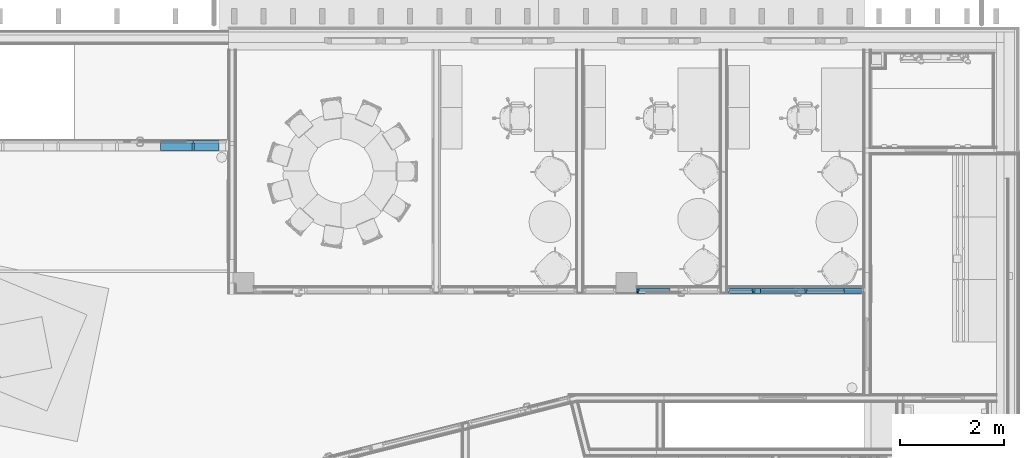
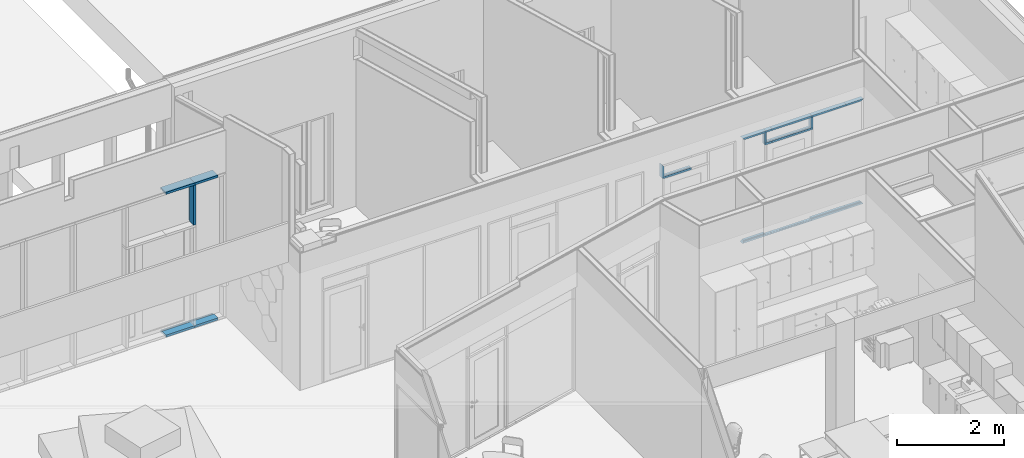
# One storey, part 7 of 153: 21 members, 3 elements without a shape of their own.
"""IFC2X3 building model written with IfcOpenShell, lengths in millimetres."""

from ifc_helpers import new_model, entity, si_unit, converted_unit, derived_unit, money_unit, direction, frame, origin_with_axes, place, context, subcontext, project, spatial, faceted_brep, source, transform, mapped, material, type_object, element, aggregate, save


model = new_model("IFC2X3")

# Units and contexts
model_context = context("Model", 3, precision=0.01, world=origin_with_axes(), true_north=direction((0.0, 1.0)))
body_context = subcontext(model_context, "Body", "Model", "MODEL_VIEW")
ifc_project = project(units=[si_unit("LENGTHUNIT", "METRE", prefix="MILLI"), si_unit("AREAUNIT", "SQUARE_METRE"), si_unit("VOLUMEUNIT", "CUBIC_METRE"), converted_unit("PLANEANGLEUNIT", "DEGREE", entity("IfcPlaneAngleMeasure", 0.0174532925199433), si_unit("PLANEANGLEUNIT", "RADIAN"), dimensions=[0, 0, 0, 0, 0, 0, 0]), money_unit("EUR"), converted_unit("TIMEUNIT", "Year", entity("IfcTimeMeasure", 31557600.0), si_unit("TIMEUNIT", "SECOND"), dimensions=[0, 0, 1, 0, 0, 0, 0]), si_unit("MASSUNIT", "GRAM", prefix="KILO"), si_unit("THERMODYNAMICTEMPERATUREUNIT", "DEGREE_CELSIUS"), si_unit("LUMINOUSINTENSITYUNIT", "LUMEN"), si_unit("ENERGYUNIT", "JOULE", prefix="MEGA"), derived_unit("THERMALCONDUCTANCEUNIT", [(si_unit("POWERUNIT", "WATT"), 1), (si_unit("LENGTHUNIT", "METRE"), -1), (si_unit("THERMODYNAMICTEMPERATUREUNIT", "KELVIN"), -1)]), derived_unit("SPECIFICHEATCAPACITYUNIT", [(si_unit("ENERGYUNIT", "JOULE"), 1), (si_unit("MASSUNIT", "GRAM", prefix="KILO"), -1), (si_unit("THERMODYNAMICTEMPERATUREUNIT", "KELVIN"), -1)]), derived_unit("MASSDENSITYUNIT", [(si_unit("MASSUNIT", "GRAM", prefix="KILO"), 1), (si_unit("VOLUMEUNIT", "CUBIC_METRE"), -1)])], contexts=[model_context])

# Site, building, storey
site_placement = place(None, frame((0.0, 0.0, 8650.0), z_axis=(0.0, 0.0, 1.0), x_axis=(1.0, 0.0, 0.0)))
site = spatial("IfcSite", under=ifc_project, at=site_placement, Name="43301:001:0844", CompositionType="ELEMENT")
building_placement = place(site_placement, origin_with_axes())
building = spatial("IfcBuilding", under=site, at=building_placement, Name="Kuressaare Ametikooli tuulikute mehaanikute õppekorpus", CompositionType="ELEMENT")
storey_placement = place(building_placement, frame((0.0, 0.0, 4100.0), z_axis=(0.0, 0.0, 1.0), x_axis=(1.0, 0.0, 0.0)))
storey = spatial("IfcBuildingStorey", under=building, at=storey_placement, Name="2.korrus", CompositionType="ELEMENT", Elevation=4100.0)

# Curtain wall, members
curtain_wall_type = type_object("IfcCurtainWallType", Name="Curtain Wall Type", PredefinedType="NOTDEFINED")
curtain_wall_1_placement = place(storey_placement, frame((116907.3849272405, 26479.57374875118, 34.9999663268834), z_axis=(0.0, 0.0, 1.0), x_axis=(1.0, 0.0, 0.0)))
curtain_wall_1 = element("IfcCurtainWall", 1, at=curtain_wall_1_placement, inside=storey, type_object=curtain_wall_type, Name="SKF-2.2,EI60")
ifc_material = material(Name="Aluminium")
member_type_1 = type_object("IfcMemberType", Name="Mullion Frame 50 x 200", PredefinedType="NOTDEFINED")
shared_shape_1 = source(origin_with_axes(), body_context, "Body", "Brep", [
    faceted_brep([(5.000000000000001, -20.0, 935.0000344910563), (5.000000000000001, 20.0, 935.0000346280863), (25.0, 19.99999999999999, 935.0000346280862), (25.0, 30.0, 935.0000346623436), (-25.0, 30.0, 935.0000346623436), (-25.0, 20.0, 935.0000346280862), (-5.000000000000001, 20.0, 935.0000346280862), (-5.000000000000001, -20.0, 935.0000344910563), (-25.0, -20.0, 935.0000344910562), (-25.0, -170.0, 935.000033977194), (25.0, -170.0, 935.000033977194), (25.0, -19.99999999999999, 935.0000344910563), (5.000000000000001, -20.0, 25.00002973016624), (5.000000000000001, 20.0, 24.99997026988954), (25.0, 20.0, 24.99997026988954), (25.0, 30.0, 24.99995540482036), (-25.0, 30.0, 24.99995540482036), (-25.0, 19.99999999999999, 24.99997026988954), (-5.000000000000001, 20.0, 24.99997026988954), (-5.000000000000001, -20.0, 25.00002973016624), (-25.0, -19.99999999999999, 25.00002973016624), (-25.0, -170.0, 25.00025270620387), (25.0, -170.0, 25.00025270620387), (25.0, -20.0, 25.00002973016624)], [[[0, 1, 2, 3, 4, 5, 6, 7, 8, 9, 10, 11]], [[0, 12, 13, 1]], [[1, 13, 14, 2]], [[14, 15, 3, 2]], [[4, 3, 15, 16]], [[17, 5, 4, 16]], [[5, 17, 18, 6]], [[7, 6, 18, 19]], [[8, 7, 19, 20]], [[8, 20, 21, 9]], [[10, 9, 21, 22]], [[11, 10, 22, 23]], [[11, 23, 12, 0]], [[13, 12, 23, 22, 21, 20, 19, 18, 17, 16, 15, 14]]]),
])
member_1_placement = place(curtain_wall_1_placement, frame((694.7177815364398, 0.0, 2300.000031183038), z_axis=(2.607958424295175e-09, 0.0, 1.0), x_axis=(-1.0, 0.0, 2.607958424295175e-09)))
member_1 = element("IfcMember", 2, at=member_1_placement, type_object=member_type_1, material=ifc_material, context=body_context, shape_type="MappedRepresentation", body=[
    mapped(shared_shape_1, transform((0.0, 0.0, 0.0), x_axis=(-1.0, 0.0, 2.607958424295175e-09), y_axis=(0.0, -1.0, 0.0), z_axis=(2.607958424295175e-09, 0.0, 1.0))),
])
member_type_2 = type_object("IfcMemberType", Name="Boundary Frame 50 x 200", PredefinedType="NOTDEFINED")
shared_shape_2 = source(origin_with_axes(), body_context, "Body", "Brep", [
    faceted_brep([(-5.000000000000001, -20.0, 624.1533366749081), (-25.0, -19.99999999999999, 624.1533366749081), (-25.0, -170.0, 624.1533366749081), (25.0, -170.0, 624.1533366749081), (25.0, 30.0, 624.1533366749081), (-25.0, 30.0, 624.1533366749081), (-25.0, 19.99999999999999, 624.1533366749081), (-5.000000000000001, 20.0, 624.1533366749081), (-5.000000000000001, -20.0, 0.0), (-25.0, -19.99999999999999, 0.0), (-25.0, -170.0, 0.0), (25.0, -170.0, 0.0), (25.0, 30.0, 0.0), (-25.0, 30.0, 0.0), (-25.0, 19.99999999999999, 0.0), (-5.000000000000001, 20.0, 0.0)], [[[0, 1, 2, 3, 4, 5, 6, 7]], [[0, 8, 9, 1]], [[9, 10, 2, 1]], [[10, 11, 3, 2]], [[11, 12, 4, 3]], [[12, 13, 5, 4]], [[6, 5, 13, 14]], [[14, 15, 7, 6]], [[7, 15, 8, 0]], [[8, 15, 14, 13, 12, 11, 10, 9]]]),
])
member_2_placement = place(curtain_wall_1_placement, frame((694.7177840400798, 0.0, 3259.999983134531), z_axis=(-1.0, 0.0, 0.0), x_axis=(0.0, 0.0, -1.0)))
member_2 = element("IfcMember", 3, at=member_2_placement, type_object=member_type_2, material=ifc_material, context=body_context, shape_type="MappedRepresentation", body=[
    mapped(shared_shape_2, transform((0.0, 0.0, 0.0), x_axis=(-1.0, 0.0, 0.0), y_axis=(0.0, -1.0, 0.0), z_axis=(0.0, 0.0, 1.0))),
])
member_3_placement = place(curtain_wall_1_placement, frame((70.56444736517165, 0.0, 0.0), z_axis=(1.0, 0.0, 0.0), x_axis=(0.0, 0.0, 1.0)))
member_3 = element("IfcMember", 4, at=member_3_placement, type_object=member_type_2, material=ifc_material, context=body_context, shape_type="MappedRepresentation", body=[
    mapped(shared_shape_2, transform((0.0, 0.0, 0.0), x_axis=(-1.0, 0.0, 0.0), y_axis=(0.0, -1.0, 0.0), z_axis=(0.0, 0.0, 1.0))),
])
shared_shape_3 = source(origin_with_axes(), body_context, "Body", "Brep", [
    faceted_brep([(-5.000000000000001, -20.0, 500.8466633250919), (-25.0, -19.99999999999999, 500.8466633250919), (-25.0, -170.0, 500.8466633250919), (25.0, -170.0, 500.8466633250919), (25.0, 30.0, 500.8466633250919), (-25.0, 30.0, 500.8466633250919), (-25.0, 19.99999999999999, 500.8466633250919), (-5.000000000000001, 20.0, 500.8466633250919), (-5.000000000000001, -20.0, -7.815231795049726e-06), (-25.0, -19.99999999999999, -7.815231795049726e-06), (-25.0, -170.0, -7.815231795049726e-06), (25.0, -170.0, -7.815231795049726e-06), (25.0, 30.0, -7.815231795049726e-06), (-25.0, 30.0, -7.815231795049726e-06), (-25.0, 19.99999999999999, -7.815231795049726e-06), (-5.000000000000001, 20.0, -7.815231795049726e-06)], [[[0, 1, 2, 3, 4, 5, 6, 7]], [[0, 8, 9, 1]], [[9, 10, 2, 1]], [[10, 11, 3, 2]], [[11, 12, 4, 3]], [[12, 13, 5, 4]], [[6, 5, 13, 14]], [[14, 15, 7, 6]], [[7, 15, 8, 0]], [[8, 15, 14, 13, 12, 11, 10, 9]]]),
])
member_4_placement = place(curtain_wall_1_placement, frame((1195.564447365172, 0.0, 3259.999983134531), z_axis=(-1.0, 0.0, 0.0), x_axis=(0.0, 0.0, -1.0)))
member_4 = element("IfcMember", 5, at=member_4_placement, type_object=member_type_2, material=ifc_material, context=body_context, shape_type="MappedRepresentation", body=[
    mapped(shared_shape_3, transform((0.0, 0.0, 0.0), x_axis=(-1.0, 0.0, 0.0), y_axis=(0.0, -1.0, 0.0), z_axis=(0.0, 0.0, 1.0))),
])
member_5_placement = place(curtain_wall_1_placement, frame((694.7177815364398, 0.0, 0.0), z_axis=(1.0, 0.0, 0.0), x_axis=(0.0, 0.0, 1.0)))
member_5 = element("IfcMember", 6, at=member_5_placement, type_object=member_type_2, material=ifc_material, context=body_context, shape_type="MappedRepresentation", body=[
    mapped(shared_shape_3, transform((0.0, 0.0, 0.0), x_axis=(-1.0, 0.0, 0.0), y_axis=(0.0, -1.0, 0.0), z_axis=(0.0, 0.0, 1.0))),
])
aggregate(curtain_wall_1, [member_2, member_4, member_1, member_3, member_5])

curtain_wall_2_placement = place(storey_placement, frame((128158.0683354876, 23599.06892395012, 7.152564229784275e-05), z_axis=(0.0, 0.0, 1.0), x_axis=(1.0, 0.0, 0.0)))
curtain_wall_2 = element("IfcCurtainWall", 7, at=curtain_wall_2_placement, inside=storey, type_object=curtain_wall_type, Name="PKF1.5")
member_type_3 = type_object("IfcMemberType", Name="Mullion Frame 40 x 90", PredefinedType="NOTDEFINED")
shared_shape_4 = source(origin_with_axes(), body_context, "Body", "Brep", [
    faceted_brep([(-5.000000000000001, -15.0, 260.000051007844), (-20.0, -15.0, 260.000051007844), (-20.0, -65.0, 260.000051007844), (20.0, -65.0, 260.000051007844), (20.0, -15.0, 260.000051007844), (5.000000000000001, -15.0, 260.000051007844), (5.000000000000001, 15.0, 260.000051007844), (20.0, 15.0, 260.000051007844), (20.0, 24.99999999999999, 260.000051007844), (-20.0, 24.99999999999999, 260.000051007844), (-20.0, 15.0, 260.000051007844), (-5.000000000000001, 15.0, 260.000051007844), (-5.000000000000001, -15.0, 20.00000000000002), (-20.0, -15.0, 20.00000000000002), (-20.0, -65.0, 20.00000000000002), (20.0, -65.0, 20.00000000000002), (20.0, -15.0, 20.00000000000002), (5.000000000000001, -15.0, 20.00000000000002), (5.000000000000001, 15.0, 20.00000000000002), (20.0, 15.0, 20.00000000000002), (20.0, 24.99999999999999, 20.00000000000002), (-20.0, 24.99999999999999, 20.00000000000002), (-20.0, 15.0, 20.00000000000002), (-5.000000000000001, 15.0, 20.00000000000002)], [[[0, 1, 2, 3, 4, 5, 6, 7, 8, 9, 10, 11]], [[1, 0, 12, 13]], [[1, 13, 14, 2]], [[2, 14, 15, 3]], [[4, 3, 15, 16]], [[4, 16, 17, 5]], [[5, 17, 18, 6]], [[7, 6, 18, 19]], [[19, 20, 8, 7]], [[8, 20, 21, 9]], [[22, 10, 9, 21]], [[11, 10, 22, 23]], [[0, 11, 23, 12]], [[23, 22, 21, 20, 19, 18, 17, 16, 15, 14, 13, 12]]]),
])
member_6_placement = place(curtain_wall_2_placement, frame((200.0000078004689, 0.0, 2099.999935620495), z_axis=(0.0, 0.0, 1.0), x_axis=(-1.0, 0.0, 0.0)))
member_6 = element("IfcMember", 8, at=member_6_placement, type_object=member_type_3, material=ifc_material, context=body_context, shape_type="MappedRepresentation", body=[
    mapped(shared_shape_4, transform((0.0, 0.0, 0.0))),
])
member_7_placement = place(curtain_wall_2_placement, frame((1200.000037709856, 0.0, 2099.999935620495), z_axis=(0.0, 0.0, 1.0), x_axis=(-1.0, 0.0, 0.0)))
member_7 = element("IfcMember", 9, at=member_7_placement, type_object=member_type_3, material=ifc_material, context=body_context, shape_type="MappedRepresentation", body=[
    mapped(shared_shape_4, transform((0.0, 0.0, 0.0))),
])

curtain_wall_3_placement = place(storey_placement, frame((126664.0825969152, 23599.06892395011, 9.536752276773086e-05), z_axis=(0.0, 0.0, 1.0), x_axis=(1.0, 0.0, 0.0)))
curtain_wall_3 = element("IfcCurtainWall", 10, at=curtain_wall_3_placement, inside=storey, type_object=curtain_wall_type, Name="PKF-1.4")
member_type_4 = type_object("IfcMemberType", Name="Boundary Frame 40 x 90", PredefinedType="NOTDEFINED")
shared_shape_5 = source(origin_with_axes(), body_context, "Body", "Brep", [
    faceted_brep([(-5.000000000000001, -15.0, 638.0426912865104), (-20.0, -15.0, 638.0426912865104), (-20.0, -65.0, 638.0426912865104), (20.0, -65.0, 638.0426912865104), (20.0, -15.0, 638.0426912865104), (5.000000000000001, -15.0, 638.0426912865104), (5.000000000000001, 15.0, 638.0426912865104), (20.0, 15.0, 638.0426912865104), (20.0, 24.99999999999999, 638.0426912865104), (-20.0, 24.99999999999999, 638.0426912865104), (-20.0, 15.0, 638.0426912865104), (-5.000000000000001, 15.0, 638.0426912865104), (-5.000000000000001, -15.0, 10.00000000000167), (-20.00000000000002, -15.0, 40.00000000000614), (-20.00000000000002, -65.0, 40.00000000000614), (0.0, -65.0, 0.0), (20.00000000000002, -65.0, 40.00000000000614), (20.00000000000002, -15.0, 40.00000000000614), (5.000000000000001, -15.0, 10.00000000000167), (5.000000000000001, 15.0, 10.00000000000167), (20.00000000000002, 15.0, 40.00000000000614), (20.00000000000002, 24.99999999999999, 40.00000000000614), (0.0, 24.99999999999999, 0.0), (-20.00000000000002, 24.99999999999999, 40.00000000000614), (-20.00000000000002, 15.0, 40.00000000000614), (-5.000000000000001, 15.0, 10.00000000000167)], [[[0, 1, 2, 3, 4, 5, 6, 7, 8, 9, 10, 11]], [[1, 0, 12, 13]], [[1, 13, 14, 2]], [[14, 15, 16, 3, 2]], [[4, 3, 16, 17]], [[4, 17, 18, 5]], [[5, 18, 19, 6]], [[7, 6, 19, 20]], [[20, 21, 8, 7]], [[21, 22, 23, 9, 8]], [[24, 10, 9, 23]], [[11, 10, 24, 25]], [[0, 11, 25, 12]], [[25, 24, 23, 22, 15, 14, 13, 12]], [[21, 20, 19, 18, 17, 16, 15, 22]]]),
])
member_8_placement = place(curtain_wall_3_placement, frame((-546.0142731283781, 0.0, 2099.999916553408), z_axis=(1.0, 0.0, 0.0), x_axis=(0.0, 0.0, 1.0)))
member_8 = element("IfcMember", 11, at=member_8_placement, type_object=member_type_4, material=ifc_material, context=body_context, shape_type="MappedRepresentation", body=[
    mapped(shared_shape_5, transform((0.0, 0.0, 0.0))),
])
shared_shape_6 = source(origin_with_axes(), body_context, "Body", "Brep", [
    faceted_brep([(25.0, -15.0, 287.5000510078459), (25.0, 15.0, 287.5000510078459), (40.00000000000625, 15.0, 280.000051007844), (40.00000000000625, 24.99999999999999, 280.000051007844), (0.0, 25.00000000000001, 300.000051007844), (0.0, 0.0, 300.000051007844), (0.0, -65.0, 300.000051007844), (40.00000000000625, -65.0, 280.000051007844), (40.00000000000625, -15.0, 280.000051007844), (25.0, -15.0, 25.00000000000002), (25.0, 15.0, 25.00000000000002), (40.00000000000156, 15.0, 40.00000000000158), (40.00000000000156, 24.99999999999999, 40.00000000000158), (0.0, 24.99999999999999, 0.0), (0.0, 0.0, 0.0), (0.0, -65.0, 0.0), (40.00000000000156, -65.0, 40.00000000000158), (40.00000000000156, -15.0, 40.00000000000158)], [[[0, 1, 2, 3, 4, 5, 6, 7, 8]], [[1, 0, 9, 10]], [[11, 2, 1, 10]], [[2, 11, 12, 3]], [[3, 12, 13, 4]], [[4, 13, 14, 5]], [[5, 14, 15, 6]], [[6, 15, 16, 7]], [[17, 8, 7, 16]], [[0, 8, 17, 9]], [[9, 17, 16, 15, 14, 13, 12, 11, 10]]]),
])
member_9_placement = place(curtain_wall_3_placement, frame((-546.0142731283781, 0.0, 2399.999976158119), z_axis=(0.0, 0.0, -1.0), x_axis=(1.0, 0.0, 0.0)))
member_9 = element("IfcMember", 12, at=member_9_placement, type_object=member_type_4, material=ifc_material, context=body_context, shape_type="MappedRepresentation", body=[
    mapped(shared_shape_6, transform((0.0, 0.0, 0.0))),
])
aggregate(curtain_wall_3, [member_9, member_8])

# Member
shared_shape_7 = source(origin_with_axes(), body_context, "Body", "Brep", [
    faceted_brep([(25.0, -15.0, 738.0427265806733), (25.0, 15.0, 738.0427265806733), (40.0, 15.0, 738.0427265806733), (40.0, 24.99999999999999, 738.0427265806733), (0.0, 24.99999999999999, 738.0427265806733), (0.0, 0.0, 738.0427265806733), (0.0, -65.0, 738.0427265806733), (40.0, -65.0, 738.0427265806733), (40.0, -15.0, 738.0427265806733), (25.0, -15.0, 0.0), (25.0, 15.0, 0.0), (40.0, 15.0, 0.0), (40.0, 24.99999999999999, 0.0), (0.0, 24.99999999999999, 0.0), (0.0, 0.0, 0.0), (0.0, -65.0, 0.0), (40.0, -65.0, 0.0), (40.0, -15.0, 0.0)], [[[0, 1, 2, 3, 4, 5, 6, 7, 8]], [[1, 0, 9, 10]], [[11, 2, 1, 10]], [[2, 11, 12, 3]], [[13, 4, 3, 12]], [[14, 5, 4, 13]], [[15, 6, 5, 14]], [[16, 7, 6, 15]], [[17, 8, 7, 16]], [[0, 8, 17, 9]], [[9, 17, 16, 15, 14, 13, 12, 11, 10]]]),
])
member_10_placement = place(curtain_wall_2_placement, frame((1200.000037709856, 0.0, -7.152564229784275e-05), z_axis=(1.0, 0.0, 0.0), x_axis=(0.0, 0.0, 1.0)))
member_10 = element("IfcMember", 13, at=member_10_placement, type_object=member_type_4, material=ifc_material, context=body_context, shape_type="MappedRepresentation", body=[
    mapped(shared_shape_7, transform((0.0, 0.0, 0.0))),
])

shared_shape_8 = source(origin_with_axes(), body_context, "Body", "Brep", [
    faceted_brep([(-25.0, -15.0, 738.0427265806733), (-40.0, -15.0, 738.0427265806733), (-40.0, -65.0, 738.0427265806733), (0.0, -65.0, 738.0427265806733), (0.0, 0.0, 738.0427265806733), (0.0, 24.99999999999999, 738.0427265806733), (-40.0, 24.99999999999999, 738.0427265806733), (-40.0, 15.0, 738.0427265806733), (-25.0, 15.0, 738.0427265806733), (-25.0, -15.0, 0.0), (-40.0, -15.0, 0.0), (-40.0, -65.0, 0.0), (0.0, -65.0, 0.0), (0.0, 0.0, 0.0), (0.0, 24.99999999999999, 0.0), (-40.0, 24.99999999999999, 0.0), (-40.0, 15.0, 0.0), (-25.0, 15.0, 0.0)], [[[0, 1, 2, 3, 4, 5, 6, 7, 8]], [[0, 9, 10, 1]], [[10, 11, 2, 1]], [[11, 12, 3, 2]], [[12, 13, 4, 3]], [[13, 14, 5, 4]], [[14, 15, 6, 5]], [[7, 6, 15, 16]], [[16, 17, 8, 7]], [[8, 17, 9, 0]], [[9, 17, 16, 15, 14, 13, 12, 11, 10]]]),
])
member_11_placement = place(curtain_wall_2_placement, frame((1200.000037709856, 0.0, 2400.000009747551), z_axis=(1.0, 0.0, 0.0), x_axis=(0.0, 0.0, 1.0)))
member_11 = element("IfcMember", 14, at=member_11_placement, type_object=member_type_4, material=ifc_material, context=body_context, shape_type="MappedRepresentation", body=[
    mapped(shared_shape_8, transform((0.0, 0.0, 0.0))),
])

shared_shape_9 = source(origin_with_axes(), body_context, "Body", "Brep", [
    faceted_brep([(-25.0, -15.0, 138.0427564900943), (-40.0, -15.0, 138.0427564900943), (-40.0, -65.0, 138.0427564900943), (0.0, -65.0, 138.0427564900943), (0.0, 0.0, 138.0427564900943), (0.0, 24.99999999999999, 138.0427564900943), (-40.0, 24.99999999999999, 138.0427564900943), (-40.0, 15.0, 138.0427564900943), (-25.0, 15.0, 138.0427564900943), (-25.0, -15.0, 0.0), (-40.0, -15.0, 0.0), (-40.0, -65.0, 0.0), (0.0, -65.0, 0.0), (0.0, 0.0, 0.0), (0.0, 24.99999999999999, 0.0), (-40.0, 24.99999999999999, 0.0), (-40.0, 15.0, 0.0), (-25.0, 15.0, 0.0)], [[[0, 1, 2, 3, 4, 5, 6, 7, 8]], [[0, 9, 10, 1]], [[10, 11, 2, 1]], [[11, 12, 3, 2]], [[12, 13, 4, 3]], [[13, 14, 5, 4]], [[14, 15, 6, 5]], [[7, 6, 15, 16]], [[16, 17, 8, 7]], [[8, 17, 9, 0]], [[9, 17, 16, 15, 14, 13, 12, 11, 10]]]),
])
member_12_placement = place(curtain_wall_2_placement, frame((200.0000078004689, 0.0, 2400.000009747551), z_axis=(1.0, 0.0, 0.0), x_axis=(0.0, 0.0, 1.0)))
member_12 = element("IfcMember", 15, at=member_12_placement, type_object=member_type_4, material=ifc_material, context=body_context, shape_type="MappedRepresentation", body=[
    mapped(shared_shape_9, transform((0.0, 0.0, 0.0))),
])

shared_shape_10 = source(origin_with_axes(), body_context, "Body", "Brep", [
    faceted_brep([(-25.0, -15.0, 346.9572810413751), (-40.0, -15.0, 331.9572810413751), (-40.0, -65.0, 331.9572810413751), (0.0, -65.0, 371.9572810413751), (0.0, 0.0, 371.9572810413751), (0.0, 24.99999999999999, 371.9572810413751), (-40.0, 24.99999999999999, 331.9572810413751), (-40.0, 15.0, 331.9572810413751), (-25.0, 15.0, 346.9572810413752), (-25.0, -15.0, 0.0), (-40.0, -15.0, 0.0), (-40.0, -65.0, 0.0), (0.0, -65.0, 0.0), (0.0, 0.0, 0.0), (0.0, 24.99999999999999, 0.0), (-40.0, 24.99999999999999, 0.0), (-40.0, 15.0, 0.0), (-25.0, 15.0, 0.0)], [[[0, 1, 2, 3, 4, 5, 6, 7, 8]], [[0, 9, 10, 1]], [[10, 11, 2, 1]], [[11, 12, 3, 2]], [[12, 13, 4, 3]], [[13, 14, 5, 4]], [[14, 15, 6, 5]], [[7, 6, 15, 16]], [[16, 17, 8, 7]], [[8, 17, 9, 0]], [[9, 17, 16, 15, 14, 13, 12, 11, 10]]]),
])
member_13_placement = place(curtain_wall_2_placement, frame((1938.042764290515, 0.0, 2400.000009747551), z_axis=(1.0, 0.0, 0.0), x_axis=(0.0, 0.0, 1.0)))
member_13 = element("IfcMember", 16, at=member_13_placement, type_object=member_type_4, material=ifc_material, context=body_context, shape_type="MappedRepresentation", body=[
    mapped(shared_shape_10, transform((0.0, 0.0, 0.0))),
])

shared_shape_11 = source(origin_with_axes(), body_context, "Body", "Brep", [
    faceted_brep([(25.0, -15.0, 346.9572810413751), (25.0, 15.0, 346.9572810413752), (40.0, 15.0, 331.9572810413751), (40.0, 24.99999999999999, 331.9572810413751), (0.0, 24.99999999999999, 371.9572810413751), (0.0, 0.0, 371.9572810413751), (0.0, -65.0, 371.9572810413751), (40.0, -65.0, 331.9572810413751), (40.0, -15.0, 331.9572810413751), (25.0, -15.0, 0.0), (25.0, 15.0, 0.0), (40.0, 15.0, 0.0), (40.0, 24.99999999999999, 0.0), (0.0, 24.99999999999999, 0.0), (0.0, 0.0, 0.0), (0.0, -65.0, 0.0), (40.0, -65.0, 0.0), (40.0, -15.0, 0.0)], [[[0, 1, 2, 3, 4, 5, 6, 7, 8]], [[1, 0, 9, 10]], [[11, 2, 1, 10]], [[2, 11, 12, 3]], [[13, 4, 3, 12]], [[14, 5, 4, 13]], [[15, 6, 5, 14]], [[16, 7, 6, 15]], [[17, 8, 7, 16]], [[0, 8, 17, 9]], [[9, 17, 16, 15, 14, 13, 12, 11, 10]]]),
])
member_14_placement = place(curtain_wall_2_placement, frame((1938.042764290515, 0.0, -7.152564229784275e-05), z_axis=(1.0, 0.0, 0.0), x_axis=(0.0, 0.0, 1.0)))
member_14 = element("IfcMember", 17, at=member_14_placement, type_object=member_type_4, material=ifc_material, context=body_context, shape_type="MappedRepresentation", body=[
    mapped(shared_shape_11, transform((0.0, 0.0, 0.0))),
])

member_type_5 = type_object("IfcMemberType", Name="10 x 90", PredefinedType="NOTDEFINED")
shared_shape_12 = source(origin_with_axes(), body_context, "Body", "Brep", [
    faceted_brep([(5.0, -15.0, 138.0427564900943), (5.0, 15.0, 138.0427564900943), (10.0, 15.0, 138.0427564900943), (10.0, 24.99999999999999, 138.0427564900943), (0.0, 24.99999999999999, 138.0427564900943), (0.0, 0.0, 138.0427564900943), (0.0, -65.0, 138.0427564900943), (10.0, -65.0, 138.0427564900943), (10.0, -15.0, 138.0427564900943), (5.0, -15.0, 0.0), (5.0, 15.0, 0.0), (10.0, 15.0, 0.0), (10.0, 24.99999999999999, 0.0), (0.0, 24.99999999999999, 0.0), (0.0, 0.0, 0.0), (0.0, -65.0, 0.0), (10.0, -65.0, 0.0), (10.0, -15.0, 0.0)], [[[0, 1, 2, 3, 4, 5, 6, 7, 8]], [[1, 0, 9, 10]], [[11, 2, 1, 10]], [[2, 11, 12, 3]], [[13, 4, 3, 12]], [[14, 5, 4, 13]], [[15, 6, 5, 14]], [[16, 7, 6, 15]], [[17, 8, 7, 16]], [[0, 8, 17, 9]], [[9, 17, 16, 15, 14, 13, 12, 11, 10]]]),
])
member_15_placement = place(curtain_wall_2_placement, frame((200.0000078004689, 0.0, -7.152564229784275e-05), z_axis=(1.0, 0.0, 0.0), x_axis=(0.0, 0.0, 1.0)))
member_15 = element("IfcMember", 18, at=member_15_placement, type_object=member_type_5, material=ifc_material, context=body_context, shape_type="MappedRepresentation", body=[
    mapped(shared_shape_12, transform((0.0, 0.0, 0.0))),
])

shared_shape_13 = source(origin_with_axes(), body_context, "Body", "Brep", [
    faceted_brep([(25.0, -15.0, 500.0000195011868), (25.0, 15.0, 500.0000195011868), (40.0, 15.0, 500.0000195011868), (40.0, 24.99999999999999, 500.0000195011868), (0.0, 24.99999999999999, 500.0000195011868), (0.0, 0.0, 500.0000195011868), (0.0, -65.0, 500.0000195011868), (40.0, -65.0, 500.0000195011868), (40.0, -15.0, 500.0000195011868), (25.0, -15.0, 25.00000000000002), (25.0, 15.0, 25.00000000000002), (40.0, 15.0, 40.00000000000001), (40.0, 24.99999999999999, 40.00000000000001), (0.0, 24.99999999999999, 0.0), (0.0, 0.0, 0.0), (0.0, -65.0, 0.0), (40.0, -65.0, 40.00000000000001), (40.0, -15.0, 40.00000000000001)], [[[0, 1, 2, 3, 4, 5, 6, 7, 8]], [[1, 0, 9, 10]], [[11, 2, 1, 10]], [[2, 11, 12, 3]], [[4, 3, 12, 13]], [[5, 4, 13, 14]], [[6, 5, 14, 15]], [[7, 6, 15, 16]], [[17, 8, 7, 16]], [[0, 8, 17, 9]], [[9, 17, 16, 15, 14, 13, 12, 11, 10]]]),
])
member_16_placement = place(curtain_wall_2_placement, frame((-300.000011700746, 0.0, -7.152564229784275e-05), z_axis=(1.0, 0.0, 0.0), x_axis=(0.0, 0.0, 1.0)))
member_16 = element("IfcMember", 19, at=member_16_placement, type_object=member_type_4, material=ifc_material, context=body_context, shape_type="MappedRepresentation", body=[
    mapped(shared_shape_13, transform((0.0, 0.0, 0.0))),
])

shared_shape_14 = source(origin_with_axes(), body_context, "Body", "Brep", [
    faceted_brep([(5.0, -15.0, 861.9572734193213), (5.0, 15.0, 861.9572734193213), (10.0, 15.0, 861.9572734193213), (10.0, 24.99999999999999, 861.9572734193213), (0.0, 24.99999999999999, 861.9572734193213), (0.0, 0.0, 861.9572734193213), (0.0, -65.0, 861.9572734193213), (10.0, -65.0, 861.9572734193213), (10.0, -15.0, 861.9572734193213), (5.0, -15.0, 0.0), (5.0, 15.0, 0.0), (10.0, 15.0, 0.0), (10.0, 24.99999999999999, 0.0), (0.0, 24.99999999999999, 0.0), (0.0, 0.0, 0.0), (0.0, -65.0, 0.0), (10.0, -65.0, 0.0), (10.0, -15.0, 0.0)], [[[0, 1, 2, 3, 4, 5, 6, 7, 8]], [[1, 0, 9, 10]], [[11, 2, 1, 10]], [[2, 11, 12, 3]], [[13, 4, 3, 12]], [[14, 5, 4, 13]], [[15, 6, 5, 14]], [[16, 7, 6, 15]], [[17, 8, 7, 16]], [[0, 8, 17, 9]], [[9, 17, 16, 15, 14, 13, 12, 11, 10]]]),
])
member_17_placement = place(curtain_wall_2_placement, frame((338.0427642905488, 0.0, -7.152564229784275e-05), z_axis=(1.0, 0.0, 0.0), x_axis=(0.0, 0.0, 1.0)))
member_17 = element("IfcMember", 20, at=member_17_placement, type_object=member_type_5, material=ifc_material, context=body_context, shape_type="MappedRepresentation", body=[
    mapped(shared_shape_14, transform((0.0, 0.0, 0.0))),
])

shared_shape_15 = source(origin_with_axes(), body_context, "Body", "Brep", [
    faceted_brep([(-25.0, -15.0, 861.9572734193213), (-40.0, -15.0, 861.9572734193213), (-40.0, -65.0, 861.9572734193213), (0.0, -65.0, 861.9572734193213), (0.0, 0.0, 861.9572734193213), (0.0, 24.99999999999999, 861.9572734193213), (-40.0, 24.99999999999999, 861.9572734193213), (-40.0, 15.0, 861.9572734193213), (-25.0, 15.0, 861.9572734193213), (-25.0, -15.0, 0.0), (-40.0, -15.0, 0.0), (-40.0, -65.0, 0.0), (0.0, -65.0, 0.0), (0.0, 0.0, 0.0), (0.0, 24.99999999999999, 0.0), (-40.0, 24.99999999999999, 0.0), (-40.0, 15.0, 0.0), (-25.0, 15.0, 0.0)], [[[0, 1, 2, 3, 4, 5, 6, 7, 8]], [[0, 9, 10, 1]], [[10, 11, 2, 1]], [[11, 12, 3, 2]], [[12, 13, 4, 3]], [[13, 14, 5, 4]], [[14, 15, 6, 5]], [[7, 6, 15, 16]], [[16, 17, 8, 7]], [[8, 17, 9, 0]], [[9, 17, 16, 15, 14, 13, 12, 11, 10]]]),
])
member_18_placement = place(curtain_wall_2_placement, frame((338.0427642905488, 0.0, 2400.000009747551), z_axis=(1.0, 0.0, 0.0), x_axis=(0.0, 0.0, 1.0)))
member_18 = element("IfcMember", 21, at=member_18_placement, type_object=member_type_4, material=ifc_material, context=body_context, shape_type="MappedRepresentation", body=[
    mapped(shared_shape_15, transform((0.0, 0.0, 0.0))),
])

shared_shape_16 = source(origin_with_axes(), body_context, "Body", "Brep", [
    faceted_brep([(-25.0, -15.0, 500.0000195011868), (-40.0, -15.0, 500.0000195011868), (-40.0, -65.0, 500.0000195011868), (0.0, -65.0, 500.0000195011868), (0.0, 0.0, 500.0000195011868), (0.0, 24.99999999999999, 500.0000195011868), (-40.0, 24.99999999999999, 500.0000195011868), (-40.0, 15.0, 500.0000195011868), (-25.0, 15.0, 500.0000195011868), (-25.0, -15.0, 25.00000000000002), (-40.0, -15.0, 40.00000000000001), (-40.0, -65.0, 40.00000000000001), (0.0, -65.0, 0.0), (0.0, 0.0, 0.0), (0.0, 24.99999999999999, 0.0), (-40.0, 24.99999999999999, 40.00000000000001), (-40.0, 15.0, 40.00000000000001), (-25.0, 15.0, 25.00000000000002)], [[[0, 1, 2, 3, 4, 5, 6, 7, 8]], [[0, 9, 10, 1]], [[10, 11, 2, 1]], [[2, 11, 12, 3]], [[3, 12, 13, 4]], [[4, 13, 14, 5]], [[5, 14, 15, 6]], [[7, 6, 15, 16]], [[16, 17, 8, 7]], [[8, 17, 9, 0]], [[9, 17, 16, 15, 14, 13, 12, 11, 10]]]),
])
member_19_placement = place(curtain_wall_2_placement, frame((-300.000011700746, 0.0, 2400.000009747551), z_axis=(1.0, 0.0, 0.0), x_axis=(0.0, 0.0, 1.0)))
member_19 = element("IfcMember", 22, at=member_19_placement, type_object=member_type_4, material=ifc_material, context=body_context, shape_type="MappedRepresentation", body=[
    mapped(shared_shape_16, transform((0.0, 0.0, 0.0))),
])

shared_shape_17 = source(origin_with_axes(), body_context, "Body", "Brep", [
    faceted_brep([(-5.000000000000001, -15.0, 881.9572734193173), (-20.0, -15.0, 881.9572734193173), (-20.0, -65.0, 881.9572734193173), (20.0, -65.0, 881.9572734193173), (20.0, -15.0, 881.9572734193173), (5.000000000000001, -15.0, 881.9572734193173), (5.000000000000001, 15.0, 881.9572734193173), (20.0, 15.0, 881.9572734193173), (20.0, 24.99999999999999, 881.9572734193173), (-20.0, 24.99999999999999, 881.9572734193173), (-20.0, 15.0, 881.9572734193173), (-5.000000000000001, 15.0, 881.9572734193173), (-5.000000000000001, -15.0, 0.0), (-20.0, -15.0, 0.0), (-20.0, -65.0, 0.0), (20.0, -65.0, 0.0), (20.0, -15.0, 0.0), (5.000000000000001, -15.0, 0.0), (5.000000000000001, 15.0, 0.0), (20.0, 15.0, 0.0), (20.0, 24.99999999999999, 0.0), (-20.0, 24.99999999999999, 0.0), (-20.0, 15.0, 0.0), (-5.000000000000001, 15.0, 0.0)], [[[0, 1, 2, 3, 4, 5, 6, 7, 8, 9, 10, 11]], [[1, 0, 12, 13]], [[1, 13, 14, 2]], [[3, 2, 14, 15]], [[4, 3, 15, 16]], [[4, 16, 17, 5]], [[5, 17, 18, 6]], [[7, 6, 18, 19]], [[19, 20, 8, 7]], [[9, 8, 20, 21]], [[22, 10, 9, 21]], [[11, 10, 22, 23]], [[0, 11, 23, 12]], [[23, 22, 21, 20, 19, 18, 17, 16, 15, 14, 13, 12]]]),
])
member_20_placement = place(curtain_wall_2_placement, frame((338.0427642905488, 0.0, 2099.999935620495), z_axis=(1.0, 0.0, 0.0), x_axis=(0.0, 0.0, 1.0)))
member_20 = element("IfcMember", 23, at=member_20_placement, type_object=member_type_4, material=ifc_material, context=body_context, shape_type="MappedRepresentation", body=[
    mapped(shared_shape_17, transform((0.0, 0.0, 0.0))),
])

shared_shape_18 = source(origin_with_axes(), body_context, "Body", "Brep", [
    faceted_brep([(-5.000000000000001, -15.0, 158.0427564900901), (-20.0, -15.0, 158.0427564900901), (-20.0, -65.0, 158.0427564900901), (20.0, -65.0, 158.0427564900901), (20.0, -15.0, 158.0427564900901), (5.000000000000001, -15.0, 158.0427564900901), (5.000000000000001, 15.0, 158.0427564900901), (20.0, 15.0, 158.0427564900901), (20.0, 24.99999999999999, 158.0427564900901), (-20.0, 24.99999999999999, 158.0427564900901), (-20.0, 15.0, 158.0427564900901), (-5.000000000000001, 15.0, 158.0427564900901), (-5.000000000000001, -15.0, 0.0), (-20.0, -15.0, 0.0), (-20.0, -65.0, 0.0), (20.0, -65.0, 0.0), (20.0, -15.0, 0.0), (5.000000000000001, -15.0, 0.0), (5.000000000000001, 15.0, 0.0), (20.0, 15.0, 0.0), (20.0, 24.99999999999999, 0.0), (-20.0, 24.99999999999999, 0.0), (-20.0, 15.0, 0.0), (-5.000000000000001, 15.0, 0.0)], [[[0, 1, 2, 3, 4, 5, 6, 7, 8, 9, 10, 11]], [[1, 0, 12, 13]], [[1, 13, 14, 2]], [[3, 2, 14, 15]], [[4, 3, 15, 16]], [[4, 16, 17, 5]], [[5, 17, 18, 6]], [[7, 6, 18, 19]], [[19, 20, 8, 7]], [[9, 8, 20, 21]], [[22, 10, 9, 21]], [[11, 10, 22, 23]], [[0, 11, 23, 12]], [[23, 22, 21, 20, 19, 18, 17, 16, 15, 14, 13, 12]]]),
])
member_21_placement = place(curtain_wall_2_placement, frame((338.0427642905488, 0.0, 2099.999935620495), z_axis=(-1.0, 0.0, 0.0), x_axis=(0.0, 0.0, -1.0)))
member_21 = element("IfcMember", 24, at=member_21_placement, type_object=member_type_4, material=ifc_material, context=body_context, shape_type="MappedRepresentation", body=[
    mapped(shared_shape_18, transform((0.0, 0.0, 0.0))),
])

aggregate(curtain_wall_2, [member_10, member_13, member_15, member_14, member_11, member_12, member_6, member_16, member_18, member_19, member_17, member_7, member_20, member_21])

save(model, "model.ifc")
